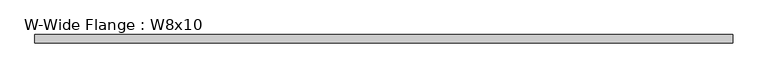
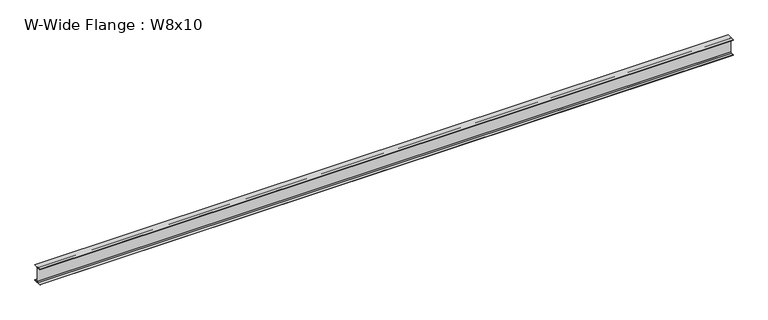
"""IFC4 building model written with IfcOpenShell, lengths in millimetres: beam geometry, W-Wide Flange : W8x10."""

from ifc_helpers import new_model, si_unit, point, frame, frame_2d, origin, place, context, project, spatial, polyline, circle_curve, trimmed, segment, composite_curve, outline, extrude, source, transform, mapped, element, save


def w_wide_flange_w8x10_b6c3ab94(model_context):
    return source(origin(), model_context, "Body", "SweptSolid", [
        extrude(outline(composite_curve([segment(polyline([(50.038, -94.996), (50.038, -100.203), (-50.038, -100.203), (-50.038, -94.996), (-14.4145, -94.996)]), True, "CONTINUOUS"), segment(trimmed(circle_curve(frame_2d((-14.4145, -82.7405)), 12.2555), [point((-14.4145, -94.996))], [point((-2.159, -82.7405))], True, "CARTESIAN"), True, "CONTINUOUS"), segment(polyline([(-2.159, -82.7405), (-2.159, 82.7405)]), True, "CONTINUOUS"), segment(trimmed(circle_curve(frame_2d((-14.4145, 82.7405)), 12.2555), [point((-2.159, 82.7405))], [point((-14.4145, 94.996))], True, "CARTESIAN"), True, "CONTINUOUS"), segment(polyline([(-14.4145, 94.996), (-50.038, 94.996), (-50.038, 100.203), (50.038, 100.203), (50.038, 94.996), (14.4145, 94.996)]), True, "CONTINUOUS"), segment(trimmed(circle_curve(frame_2d((14.4145, 82.7405)), 12.2555), [point((14.4145, 94.996))], [point((2.159, 82.7405))], True, "CARTESIAN"), True, "CONTINUOUS"), segment(polyline([(2.159, 82.7405), (2.159, -82.7405)]), True, "CONTINUOUS"), segment(trimmed(circle_curve(frame_2d((14.4145, -82.7405)), 12.2555), [point((2.159, -82.7405))], [point((14.4145, -94.996))], True, "CARTESIAN"), True, "CONTINUOUS"), segment(polyline([(14.4145, -94.996), (50.038, -94.996)]), True, "CONTINUOUS")], self_intersect=False)), frame((-4203.573, 0.0, 0.0), z_axis=(1.0, 0.0, 0.0), x_axis=(0.0, 1.0, 0.0)), (0.0, 0.0, 1.0), 8384.286),
    ])


if __name__ == "__main__":
    model = new_model("IFC4")
    model_context = context("Model", 3, world=origin())
    ifc_project = project(units=[si_unit("LENGTHUNIT", "METRE", prefix="MILLI")], contexts=[model_context])
    site = spatial("IfcSite", under=ifc_project)
    building = spatial("IfcBuilding", under=site)
    placement = place(None, origin())
    w_wide_flange_w8x10_shape = w_wide_flange_w8x10_b6c3ab94(model_context)
    element("IfcBeam", 1, ObjectType="W-Wide Flange : W8x10", at=placement, inside=building, context=model_context, shape_type="MappedRepresentation", body=[
        mapped(w_wide_flange_w8x10_shape, transform((0.0, 0.0, 0.0), x_axis=(1.0, 0.0, 0.0), y_axis=(0.0, 1.0, 0.0), z_axis=(0.0, 0.0, 1.0))),
    ])
    save(model, "model.ifc")
